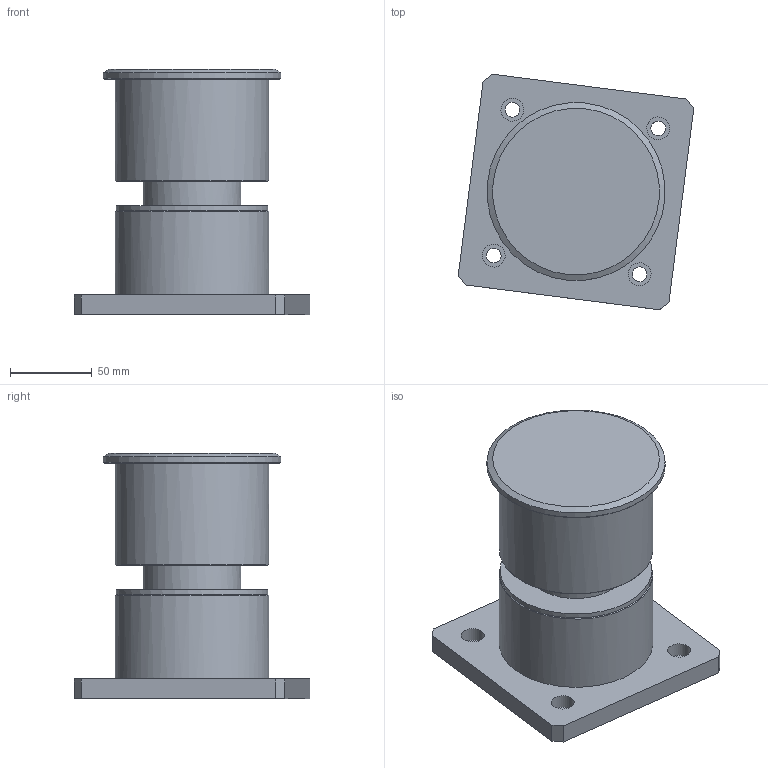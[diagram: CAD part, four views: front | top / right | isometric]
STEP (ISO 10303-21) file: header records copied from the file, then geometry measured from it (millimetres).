
FILE_DESCRIPTION(/* description */ (''),/* implementation_level */ '2;1');
FILE_NAME(/* name */ 'A:\업무자료\03. 개발\홍보자료제작\홈페이지(BKCI)\20181008 이전이력\첨부자료\STEP 파일\EFAU-15\EFFS\EFFS-15-0-SUS-S UP.stp',/* time_stamp */ '2018-11-30T13:45:20+09:00',/* author */ ('idt-l'),/* organization */ (''),/* preprocessor_version */ 'ST-DEVELOPER v16.13',/* originating_system */ 'Autodesk Inventor 2018',/* authorisation */ '');
FILE_SCHEMA (('AUTOMOTIVE_DESIGN { 1 0 10303 214 3 1 1 }'));
Length unit declared in the file: inch
Products named in the file (1): EFFS-15-0-SUS-S UP
Bounding box: 144.17 x 144.17 x 150.03 mm (x, y, z)
Volume: 1104645.3 mm3; surface area: 93429.4 mm2
Topology: 1 solids, 1 shells, 37 faces, 77 edges, 51 vertices
Faces by surface type: plane 19, cylinder 14, cone 4
Full cylindrical faces by diameter (mm): 9 x4, 14 x4, 60 x1, 93 x1, 94 x2, 94.2 x1, 109 x1
Entity records: 982 total; most frequent: DIRECTION 162, CARTESIAN_POINT 140, ORIENTED_EDGE 110, EDGE_LOOP 72, AXIS2_PLACEMENT_3D 69, EDGE_CURVE 55, VERTEX_POINT 47, STYLED_ITEM 37
